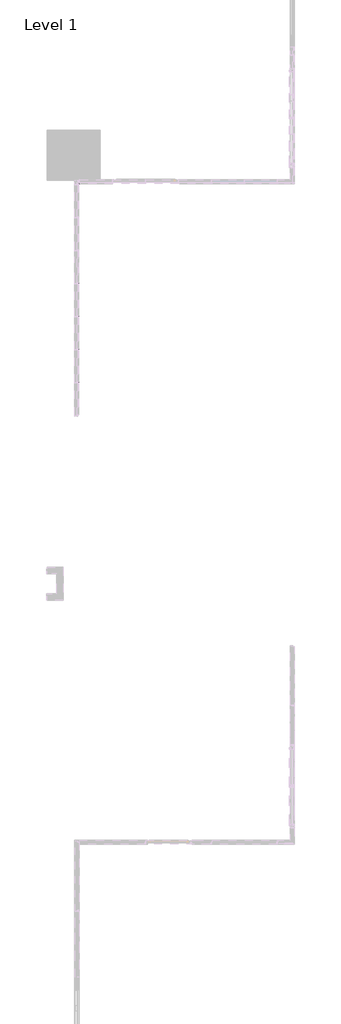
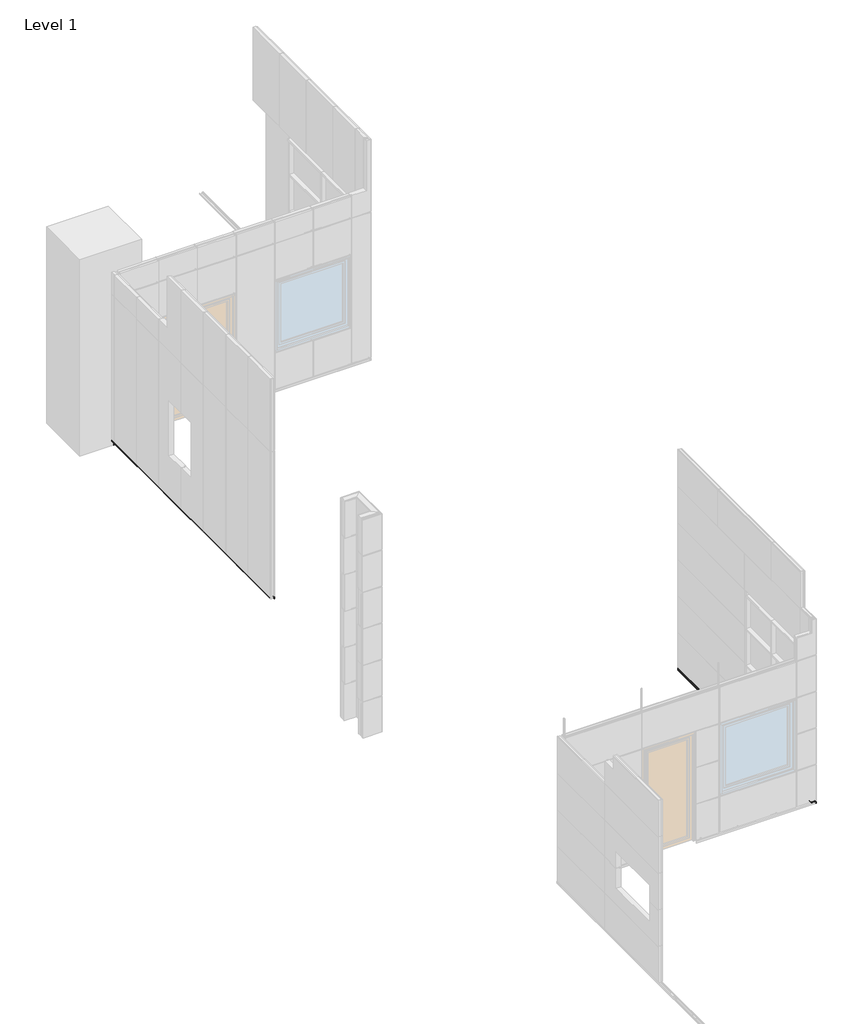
# One storey, part 6 of 8: 3 beams, 1 column.
"""IFC4 building model written with IfcOpenShell, lengths in millimetres."""

from ifc_helpers import new_model, si_unit, point, frame, frame_2d, origin, place, context, project, spatial, polyline, circle_curve, ellipse_curve, trimmed, segment, composite_curve, outline, extrude, faceted_brep, transform, mapped, element, save
from ifc_brep_helpers import plane_surface, cylinder_surface, revolved_surface, advanced_brep
from components import base_detail_476fe2c5, base_detail_be26cd4f, qo_joint_2cbc9101

model = new_model("IFC4")

# Units and contexts
model_context = context("Model", 3, world=origin())
ifc_project = project(units=[si_unit("LENGTHUNIT", "METRE", prefix="MILLI")], contexts=[model_context])

# Site, building, storey
site = spatial("IfcSite", under=ifc_project)
building = spatial("IfcBuilding", under=site)
storey = spatial("IfcBuildingStorey", under=building, Name="Level 1", Elevation=0.0)

# Beams
placement = place(None, origin())
element("IfcBeam", 1, ObjectType="QO-H-02_01 Base : Base detail", at=placement, inside=storey, context=model_context, shape_type="SolidModel", body=[
    faceted_brep([(-37.5982754, -12000.1, 158.1857205), (-37.5982754, -12000.1, 143.1857205), (-36.7982754, -12000.1, 143.1857205), (-36.7982754, -12000.1, 157.3857205), (-33.3982754, -12000.1, 157.3857205), (-33.3982754, -12000.1, 117.4526556), (-0.5238504, -12000.1, 114.5765161), (-0.5238504, -12000.1, 67.2409519), (-9.7647666, -12000.1, 76.4818682), (-10.3304521, -12000.1, 75.9161827), (0.2761496, -12000.1, 65.309581), (0.2761496, -12000.1, 115.309581), (-32.5982754, -12000.1, 118.1857205), (-32.5982754, -12000.1, 158.1857205), (-37.5982754, -6012.8, 158.1857205), (-32.5982754, -6012.8, 158.1857205), (-32.5982754, -6012.8, 118.1857205), (0.2761496, -6012.8, 115.309581), (0.2761496, -6012.8, 65.309581), (-10.3304521, -6012.8, 75.9161827), (-9.7647666, -6012.8, 76.4818682), (-0.5238504, -6012.8, 67.2409519), (-0.5238504, -6012.8, 114.5765161), (-33.3982754, -6012.8, 117.4526556), (-33.3982754, -6012.8, 157.3857205), (-36.7982754, -6012.8, 157.3857205), (-36.7982754, -6012.8, 143.1857205), (-37.5982754, -6012.8, 143.1857205)], [[[0, 1, 2, 3, 4, 5, 6, 7, 8, 9, 10, 11, 12, 13]], [[14, 15, 16, 17, 18, 19, 20, 21, 22, 23, 24, 25, 26, 27]], [[1, 0, 14, 27]], [[2, 1, 27, 26]], [[3, 2, 26, 25]], [[4, 3, 25, 24]], [[5, 4, 24, 23]], [[6, 5, 23, 22]], [[7, 6, 22, 21]], [[8, 7, 21, 20]], [[9, 8, 20, 19]], [[10, 9, 19, 18]], [[11, 10, 18, 17]], [[12, 11, 17, 16]], [[13, 12, 16, 15]], [[0, 13, 15, 14]]]),
    faceted_brep([(-7.8e-06, -12000.1, 65.5857384), (0.2761496, -12000.1, 65.309581), (0.2761496, -12000.1, 115.309581), (-7.8e-06, -12000.1, 115.3337417), (-10.3304521, -11989.7695557, 75.9161827), (-10.3304521, -6012.8, 75.9161827), (0.2761496, -6012.8, 65.309581), (0.2761496, -6012.8, 115.309581), (-32.5982754, -6012.8, 118.1857205), (-32.5982754, -11967.5017324, 118.1857205), (-37.5982754, -6012.8, 158.1857205), (-32.5982754, -6012.8, 158.1857205), (-9.7647666, -6012.8, 76.4818682), (-0.5238504, -6012.8, 67.2409519), (-0.5238504, -6012.8, 114.5765161), (-33.3982754, -6012.8, 117.4526556), (-33.3982754, -6012.8, 157.3857205), (-36.7982754, -6012.8, 157.3857205), (-36.7982754, -6012.8, 143.1857205), (-37.5982754, -6012.8, 143.1857205), (-32.5982754, -11967.5017324, 158.1857205), (-37.5982754, -11962.5017324, 158.1857205), (-9.7647666, -11990.3352411, 76.4818682), (-0.5238504, -11999.5761574, 67.2409519), (-0.5238504, -11999.5761574, 114.5765161), (-33.3982754, -11966.7017324, 117.4526556), (-33.3982754, -11966.7017324, 157.3857205), (-36.7982754, -11963.3017324, 157.3857205), (-36.7982754, -11963.3017324, 143.1857205), (-37.5982754, -11962.5017324, 143.1857205)], [[[0, 1, 2, 3]], [[1, 0, 4, 5, 6]], [[2, 1, 6, 7]], [[3, 2, 7, 8, 9]], [[10, 11, 8, 7, 6, 5, 12, 13, 14, 15, 16, 17, 18, 19]], [[20, 11, 10, 21]], [[9, 8, 11, 20]], [[22, 12, 5, 4]], [[23, 13, 12, 22]], [[24, 14, 13, 23]], [[25, 15, 14, 24]], [[26, 16, 15, 25]], [[27, 17, 16, 26]], [[28, 18, 17, 27]], [[29, 19, 18, 28]], [[21, 10, 19, 29]], [[0, 3, 9, 20, 21, 29, 28, 27, 26, 25, 24, 23, 22, 4]]]),
    advanced_brep(
    [(-121.5, -6012.8, 130.5), (-124.5, -6012.8, 133.5), (-124.5, -6012.8, 180.5), (-123.0, -6012.8, 180.5), (-123.0, -6012.8, 133.5), (-121.5, -6012.8, 132.0), (-54.5, -6012.8, 132.0), (-54.5, -6012.8, 130.5), (-121.5, -12000.1, 130.5), (-54.5, -12000.1, 130.5), (-54.5, -12000.1, 132.0), (-121.5, -12000.1, 132.0), (-123.0, -12000.1, 133.5), (-123.0, -12000.1, 180.5), (-124.5, -12000.1, 180.5), (-124.5, -12000.1, 133.5)],
    [
        (0, 1, circle_curve(frame((-121.5, -6012.8, 133.5), z_axis=(0.0, 1.0, 0.0), x_axis=(-1.0, 0.0, 0.0)), 3.0)),
        (1, 2),
        (2, 3),
        (3, 4),
        (4, 5, circle_curve(frame((-121.5, -6012.8, 133.5), z_axis=(0.0, -1.0, 0.0), x_axis=(-1.0, 0.0, 0.0)), 1.5)),
        (5, 6),
        (6, 7),
        (7, 0),
        (8, 9),
        (9, 10),
        (10, 11),
        (11, 12, circle_curve(frame((-121.5, -12000.1, 133.5), z_axis=(0.0, 1.0, 0.0), x_axis=(-1.0, 0.0, 0.0)), 1.5)),
        (12, 13),
        (13, 14),
        (14, 15),
        (15, 8, circle_curve(frame((-121.5, -12000.1, 133.5), z_axis=(0.0, -1.0, 0.0), x_axis=(-1.0, 0.0, 0.0)), 3.0)),
        (0, 8),
        (15, 1),
        (14, 2),
        (13, 3),
        (12, 4),
        (11, 5),
        (10, 6),
        (9, 7),
    ],
    [
        plane_surface(frame((-124.5, -6012.8, 133.5), z_axis=(0.0, 1.0, 0.0), x_axis=(0.0, 0.0, 1.0))),
        plane_surface(frame((-124.5, -12000.1, 133.5), z_axis=(0.0, -1.0, 0.0), x_axis=(0.0, 0.0, -1.0))),
        cylinder_surface(frame((-121.5, -12000.1, 133.5), z_axis=(0.0, 1.0, 0.0), x_axis=(-1.0, 0.0, 0.0)), 3.0),
        plane_surface(frame((-124.5, -6012.8, 133.5), z_axis=(-1.0, 0.0, 0.0), x_axis=(0.0, -1.0, 0.0))),
        plane_surface(frame((-124.5, -6012.8, 180.5), z_axis=(0.0, 0.0, 1.0), x_axis=(0.0, -1.0, 0.0))),
        plane_surface(frame((-123.0, -6012.8, 180.5), z_axis=(1.0, 0.0, 0.0), x_axis=(0.0, -1.0, 0.0))),
        revolved_surface(polyline([(-123.0, -12000.1, 133.5), (-123.0, -6012.8, 133.5)]), (-121.5, -12000.1, 133.5), (0.0, -1.0, 0.0)),
        plane_surface(frame((-121.5, -6012.8, 132.0), z_axis=(0.0, 0.0, 1.0), x_axis=(0.0, -1.0, 0.0))),
        plane_surface(frame((-54.5, -6012.8, 132.0), z_axis=(1.0, 0.0, 0.0), x_axis=(0.0, -1.0, 0.0))),
        plane_surface(frame((-54.5, -6012.8, 130.5), z_axis=(0.0, 0.0, -1.0), x_axis=(0.0, -1.0, 0.0))),
    ],
    [
        (0, [[1, 2, 3, 4, 5, 6, 7, 8]]),
        (1, [[9, 10, 11, 12, 13, 14, 15, 16]]),
        (2, [[-1, 17, -16, 18]]),
        (3, [[-2, -18, -15, 19]]),
        (4, [[-3, -19, -14, 20]]),
        (5, [[-4, -20, -13, 21]]),
        (6, [[-5, -21, -12, 22]]),
        (7, [[-6, -22, -11, 23]]),
        (8, [[-7, -23, -10, 24]]),
        (9, [[-8, -24, -9, -17]]),
    ],
),
    advanced_brep(
    [(-121.5, -6012.8, 130.5), (-124.5, -6012.8, 133.5), (-124.5, -6012.8, 180.5), (-123.0, -6012.8, 180.5), (-123.0, -6012.8, 133.5), (-121.5, -6012.8, 132.0), (-54.5, -6012.8, 132.0), (-54.5, -6012.8, 130.5), (-121.5, -11878.6000078, 130.5), (-124.5, -11875.6000078, 133.5), (-124.5, -11875.6000078, 180.5), (-123.0, -11877.1000078, 180.5), (-123.0, -11877.1000078, 133.5), (-121.5, -11878.6000078, 132.0), (-54.5, -11945.6000078, 132.0), (-54.5, -11945.6000078, 130.5)],
    [
        (0, 1, circle_curve(frame((-121.5, -6012.8, 133.5), z_axis=(0.0, 1.0, 0.0), x_axis=(-1.0, 0.0, 0.0)), 3.0)),
        (1, 2),
        (2, 3),
        (3, 4),
        (4, 5, circle_curve(frame((-121.5, -6012.8, 133.5), z_axis=(0.0, -1.0, 0.0), x_axis=(-1.0, 0.0, 0.0)), 1.5)),
        (5, 6),
        (6, 7),
        (7, 0),
        (0, 8),
        (8, 9, ellipse_curve(frame((-121.5, -11878.6000078, 133.5), z_axis=(0.7071067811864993, 0.7071067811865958, 0.0), x_axis=(-0.7071067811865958, 0.7071067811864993, 0.0)), 4.2426407, 3.0)),
        (9, 1),
        (9, 10),
        (10, 2),
        (10, 11),
        (11, 3),
        (11, 12),
        (12, 4),
        (12, 13, ellipse_curve(frame((-121.5, -11878.6000078, 133.5), z_axis=(-0.7071067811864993, -0.7071067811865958, 0.0), x_axis=(0.7071067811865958, -0.7071067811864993, 0.0)), 2.1213203, 1.5)),
        (13, 5),
        (13, 14),
        (14, 6),
        (14, 15),
        (15, 7),
        (15, 8),
    ],
    [
        plane_surface(frame((-124.5, -6012.8, 133.5), z_axis=(0.0, 1.0, 0.0), x_axis=(0.0, 0.0, 1.0))),
        cylinder_surface(frame((-121.5, -12000.1, 133.5), z_axis=(0.0, 1.0, 0.0), x_axis=(-1.0, 0.0, 0.0)), 3.0),
        plane_surface(frame((-124.5, -6012.8, 133.5), z_axis=(-1.0, 0.0, 0.0), x_axis=(0.0, -1.0, 0.0))),
        plane_surface(frame((-124.5, -6012.8, 180.5), z_axis=(0.0, 0.0, 1.0), x_axis=(0.0, -1.0, 0.0))),
        plane_surface(frame((-123.0, -6012.8, 180.5), z_axis=(1.0, 0.0, 0.0), x_axis=(0.0, -1.0, 0.0))),
        revolved_surface(polyline([(-123.0, -11880.100007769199, 133.5), (-123.0, -6012.8, 133.5)]), (-121.5, -12000.1, 133.5), (0.0, -1.0, 0.0)),
        plane_surface(frame((-121.5, -6012.8, 132.0), z_axis=(0.0, 0.0, 1.0), x_axis=(0.0, -1.0, 0.0))),
        plane_surface(frame((-54.5, -6012.8, 132.0), z_axis=(1.0, 0.0, 0.0), x_axis=(0.0, -1.0, 0.0))),
        plane_surface(frame((-54.5, -6012.8, 130.5), z_axis=(0.0, 0.0, -1.0), x_axis=(0.0, -1.0, 0.0))),
        plane_surface(frame((0.0, -12000.1000078, 100000.0), z_axis=(-0.7071067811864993, -0.7071067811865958, 0.0), x_axis=(-0.7071067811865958, 0.7071067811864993, 0.0))),
    ],
    [
        (0, [[1, 2, 3, 4, 5, 6, 7, 8]]),
        (1, [[-1, 9, 10, 11]]),
        (2, [[-2, -11, 12, 13]]),
        (3, [[-3, -13, 14, 15]]),
        (4, [[-4, -15, 16, 17]]),
        (5, [[-5, -17, 18, 19]]),
        (6, [[-6, -19, 20, 21]]),
        (7, [[-7, -21, 22, 23]]),
        (8, [[-8, -23, 24, -9]]),
        (9, [[-10, -24, -22, -20, -18, -16, -14, -12]]),
    ],
),
    extrude(outline(composite_curve([segment(polyline([(157.0, -34.0), (157.0, -36.0), (136.0, -36.0)]), True, "CONTINUOUS"), segment(trimmed(circle_curve(frame_2d((136.0, -38.0)), 2.0), [point((136.0, -36.0))], [point((134.0, -38.0))], True, "CARTESIAN"), True, "CONTINUOUS"), segment(polyline([(134.0, -38.0), (134.0, -108.0)]), True, "CONTINUOUS"), segment(trimmed(circle_curve(frame_2d((136.0, -108.0)), 2.0), [point((134.0, -108.0))], [point((136.0, -110.0))], True, "CARTESIAN"), True, "CONTINUOUS"), segment(polyline([(136.0, -110.0), (157.0, -110.0), (157.0, -112.0), (136.0, -112.0)]), True, "CONTINUOUS"), segment(trimmed(circle_curve(frame_2d((136.0, -108.0)), 4.0), [point((136.0, -112.0))], [point((132.0, -108.0))], False, "CARTESIAN"), True, "CONTINUOUS"), segment(polyline([(132.0, -108.0), (132.0, -38.0)]), True, "CONTINUOUS"), segment(trimmed(circle_curve(frame_2d((136.0, -38.0)), 4.0), [point((132.0, -38.0))], [point((136.0, -34.0))], False, "CARTESIAN"), True, "CONTINUOUS"), segment(polyline([(136.0, -34.0), (157.0, -34.0)]), True, "CONTINUOUS")], self_intersect=False)), frame((0.0, -6162.8, 0.0), z_axis=(0.0, 1.0, 0.0), x_axis=(0.0, 0.0, 1.0)), (0.0, 0.0, 1.0), 150.0),
    extrude(outline(composite_curve([segment(polyline([(157.0, -34.0), (157.0, -36.0), (136.0, -36.0)]), True, "CONTINUOUS"), segment(trimmed(circle_curve(frame_2d((136.0, -38.0)), 2.0), [point((136.0, -36.0))], [point((134.0, -38.0))], True, "CARTESIAN"), True, "CONTINUOUS"), segment(polyline([(134.0, -38.0), (134.0, -108.0)]), True, "CONTINUOUS"), segment(trimmed(circle_curve(frame_2d((136.0, -108.0)), 2.0), [point((134.0, -108.0))], [point((136.0, -110.0))], True, "CARTESIAN"), True, "CONTINUOUS"), segment(polyline([(136.0, -110.0), (157.0, -110.0), (157.0, -112.0), (136.0, -112.0)]), True, "CONTINUOUS"), segment(trimmed(circle_curve(frame_2d((136.0, -108.0)), 4.0), [point((136.0, -112.0))], [point((132.0, -108.0))], False, "CARTESIAN"), True, "CONTINUOUS"), segment(polyline([(132.0, -108.0), (132.0, -38.0)]), True, "CONTINUOUS"), segment(trimmed(circle_curve(frame_2d((136.0, -38.0)), 4.0), [point((132.0, -38.0))], [point((136.0, -34.0))], False, "CARTESIAN"), True, "CONTINUOUS"), segment(polyline([(136.0, -34.0), (157.0, -34.0)]), True, "CONTINUOUS")], self_intersect=False)), frame((0.0, -7162.8, 0.0), z_axis=(0.0, 1.0, 0.0), x_axis=(0.0, 0.0, 1.0)), (0.0, 0.0, 1.0), 150.0),
    advanced_brep(
    [(-34.0, -12000.1, 157.0), (-36.0, -12000.1, 157.0), (-36.0, -12000.1, 136.0), (-38.0, -12000.1, 134.0), (-108.0, -12000.1, 134.0), (-110.0, -12000.1, 136.0), (-110.0, -12000.1, 157.0), (-112.0, -12000.1, 157.0), (-112.0, -12000.1, 136.0), (-108.0, -12000.1, 132.0), (-38.0, -12000.1, 132.0), (-34.0, -12000.1, 136.0), (-34.0, -11850.1, 157.0), (-34.0, -11850.1, 136.0), (-38.0, -11850.1, 132.0), (-108.0, -11850.1, 132.0), (-112.0, -11850.1, 136.0), (-112.0, -11850.1, 157.0), (-110.0, -11850.1, 157.0), (-110.0, -11850.1, 136.0), (-108.0, -11850.1, 134.0), (-38.0, -11850.1, 134.0), (-36.0, -11850.1, 136.0), (-36.0, -11850.1, 157.0)],
    [
        (0, 1),
        (1, 2),
        (2, 3, circle_curve(frame((-38.0, -12000.1, 136.0), z_axis=(0.0, 1.0, 0.0), x_axis=(1.0, 0.0, 0.0)), 2.0)),
        (3, 4),
        (4, 5, circle_curve(frame((-108.0, -12000.1, 136.0), z_axis=(0.0, 1.0, 0.0), x_axis=(1.0, 0.0, 0.0)), 2.0)),
        (5, 6),
        (6, 7),
        (7, 8),
        (8, 9, circle_curve(frame((-108.0, -12000.1, 136.0), z_axis=(0.0, -1.0, 0.0), x_axis=(1.0, 0.0, 0.0)), 4.0)),
        (9, 10),
        (10, 11, circle_curve(frame((-38.0, -12000.1, 136.0), z_axis=(0.0, -1.0, 0.0), x_axis=(1.0, 0.0, 0.0)), 4.0)),
        (11, 0),
        (12, 13),
        (13, 14, circle_curve(frame((-38.0, -11850.1, 136.0), z_axis=(0.0, 1.0, 0.0), x_axis=(1.0, 0.0, 0.0)), 4.0)),
        (14, 15),
        (15, 16, circle_curve(frame((-108.0, -11850.1, 136.0), z_axis=(0.0, 1.0, 0.0), x_axis=(1.0, 0.0, 0.0)), 4.0)),
        (16, 17),
        (17, 18),
        (18, 19),
        (19, 20, circle_curve(frame((-108.0, -11850.1, 136.0), z_axis=(0.0, -1.0, 0.0), x_axis=(1.0, 0.0, 0.0)), 2.0)),
        (20, 21),
        (21, 22, circle_curve(frame((-38.0, -11850.1, 136.0), z_axis=(0.0, -1.0, 0.0), x_axis=(1.0, 0.0, 0.0)), 2.0)),
        (22, 23),
        (23, 12),
        (0, 12),
        (23, 1),
        (22, 2),
        (21, 3),
        (20, 4),
        (19, 5),
        (18, 6),
        (17, 7),
        (16, 8),
        (15, 9),
        (14, 10),
        (13, 11),
    ],
    [
        plane_surface(frame((-34.0, -12000.1, 157.0), z_axis=(0.0, -1.0, 0.0), x_axis=(-1.0, 0.0, 0.0))),
        plane_surface(frame((-34.0, -11850.1, 157.0), z_axis=(0.0, 1.0, 0.0), x_axis=(1.0, 0.0, 0.0))),
        plane_surface(frame((-34.0, -12000.1, 157.0), z_axis=(0.0, 0.0, 1.0), x_axis=(0.0, 1.0, 0.0))),
        plane_surface(frame((-36.0, -12000.1, 157.0), z_axis=(-1.0, 0.0, 0.0), x_axis=(0.0, 1.0, 0.0))),
        revolved_surface(polyline([(-36.0, -11850.1, 136.0), (-36.0, -12000.1, 136.0)]), (-38.0, -11850.1, 136.0), (0.0, 1.0, 0.0)),
        plane_surface(frame((-38.0, -12000.1, 134.0), z_axis=(0.0, 0.0, 1.0), x_axis=(0.0, 1.0, 0.0))),
        revolved_surface(polyline([(-106.0, -11850.1, 136.0), (-106.0, -12000.1, 136.0)]), (-108.0, -11850.1, 136.0), (0.0, 1.0, 0.0)),
        plane_surface(frame((-110.0, -12000.1, 136.0), z_axis=(1.0, 0.0, 0.0), x_axis=(0.0, 1.0, 0.0))),
        plane_surface(frame((-110.0, -12000.1, 157.0), z_axis=(0.0, 0.0, 1.0), x_axis=(0.0, 1.0, 0.0))),
        plane_surface(frame((-112.0, -12000.1, 157.0), z_axis=(-1.0, 0.0, 0.0), x_axis=(0.0, 1.0, 0.0))),
        cylinder_surface(frame((-108.0, -11850.1, 136.0), z_axis=(0.0, -1.0, 0.0), x_axis=(1.0, 0.0, 0.0)), 4.0),
        plane_surface(frame((-108.0, -12000.1, 132.0), z_axis=(0.0, 0.0, -1.0), x_axis=(0.0, 1.0, 0.0))),
        cylinder_surface(frame((-38.0, -11850.1, 136.0), z_axis=(0.0, -1.0, 0.0), x_axis=(1.0, 0.0, 0.0)), 4.0),
        plane_surface(frame((-34.0, -12000.1, 136.0), z_axis=(1.0, 0.0, 0.0), x_axis=(0.0, 1.0, 0.0))),
    ],
    [
        (0, [[1, 2, 3, 4, 5, 6, 7, 8, 9, 10, 11, 12]]),
        (1, [[13, 14, 15, 16, 17, 18, 19, 20, 21, 22, 23, 24]]),
        (2, [[-1, 25, -24, 26]]),
        (3, [[-2, -26, -23, 27]]),
        (4, [[-3, -27, -22, 28]]),
        (5, [[-4, -28, -21, 29]]),
        (6, [[-5, -29, -20, 30]]),
        (7, [[-6, -30, -19, 31]]),
        (8, [[-7, -31, -18, 32]]),
        (9, [[-8, -32, -17, 33]]),
        (10, [[-9, -33, -16, 34]]),
        (11, [[-10, -34, -15, 35]]),
        (12, [[-11, -35, -14, 36]]),
        (13, [[-12, -36, -13, -25]]),
    ],
),
    advanced_brep(
    [(-34.0, -11850.1, 157.0), (-34.0, -11850.1, 136.0), (-38.0, -11850.1, 132.0), (-108.0, -11850.1, 132.0), (-112.0, -11850.1, 136.0), (-112.0, -11850.1, 157.0), (-110.0, -11850.1, 157.0), (-110.0, -11850.1, 136.0), (-108.0, -11850.1, 134.0), (-38.0, -11850.1, 134.0), (-36.0, -11850.1, 136.0), (-36.0, -11850.1, 157.0), (-34.0, -11966.1000078, 136.0), (-34.0, -11966.1000078, 157.0), (-38.0, -11962.1000078, 132.0), (-108.0, -11892.1000078, 132.0), (-112.0, -11888.1000078, 136.0), (-112.0, -11888.1000078, 157.0), (-110.0, -11890.1000078, 157.0), (-110.0, -11890.1000078, 136.0), (-108.0, -11892.1000078, 134.0), (-38.0, -11962.1000078, 134.0), (-36.0, -11964.1000078, 136.0), (-36.0, -11964.1000078, 157.0)],
    [
        (0, 1),
        (1, 2, circle_curve(frame((-38.0, -11850.1, 136.0), z_axis=(0.0, 1.0, 0.0), x_axis=(1.0, 0.0, 0.0)), 4.0)),
        (2, 3),
        (3, 4, circle_curve(frame((-108.0, -11850.1, 136.0), z_axis=(0.0, 1.0, 0.0), x_axis=(1.0, 0.0, 0.0)), 4.0)),
        (4, 5),
        (5, 6),
        (6, 7),
        (7, 8, circle_curve(frame((-108.0, -11850.1, 136.0), z_axis=(0.0, -1.0, 0.0), x_axis=(1.0, 0.0, 0.0)), 2.0)),
        (8, 9),
        (9, 10, circle_curve(frame((-38.0, -11850.1, 136.0), z_axis=(0.0, -1.0, 0.0), x_axis=(1.0, 0.0, 0.0)), 2.0)),
        (10, 11),
        (11, 0),
        (12, 1),
        (0, 13),
        (13, 12),
        (14, 2),
        (12, 14, ellipse_curve(frame((-38.0, -11962.1000078, 136.0), z_axis=(0.7071067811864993, 0.7071067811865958, 0.0), x_axis=(0.7071067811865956, -0.7071067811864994, 0.0)), 5.6568542, 4.0)),
        (15, 3),
        (14, 15),
        (16, 4),
        (15, 16, ellipse_curve(frame((-108.0, -11892.1000078, 136.0), z_axis=(0.7071067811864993, 0.7071067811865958, 0.0), x_axis=(0.7071067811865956, -0.7071067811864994, 0.0)), 5.6568542, 4.0)),
        (17, 5),
        (16, 17),
        (18, 6),
        (17, 18),
        (19, 7),
        (18, 19),
        (20, 8),
        (19, 20, ellipse_curve(frame((-108.0, -11892.1000078, 136.0), z_axis=(-0.7071067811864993, -0.7071067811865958, 0.0), x_axis=(-0.7071067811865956, 0.7071067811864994, 0.0)), 2.8284271, 2.0)),
        (21, 9),
        (20, 21),
        (22, 10),
        (21, 22, ellipse_curve(frame((-38.0, -11962.1000078, 136.0), z_axis=(-0.7071067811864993, -0.7071067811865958, 0.0), x_axis=(-0.7071067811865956, 0.7071067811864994, 0.0)), 2.8284271, 2.0)),
        (23, 11),
        (22, 23),
        (23, 13),
    ],
    [
        plane_surface(frame((-34.0, -11850.1, 157.0), z_axis=(0.0, 1.0, 0.0), x_axis=(1.0, 0.0, 0.0))),
        plane_surface(frame((-34.0, -12000.1, 136.0), z_axis=(1.0, 0.0, 0.0), x_axis=(0.0, 1.0, 0.0))),
        cylinder_surface(frame((-38.0, -11850.1, 136.0), z_axis=(0.0, -1.0, 0.0), x_axis=(1.0, 0.0, 0.0)), 4.0),
        plane_surface(frame((-108.0, -12000.1, 132.0), z_axis=(0.0, 0.0, -1.0), x_axis=(0.0, 1.0, 0.0))),
        cylinder_surface(frame((-108.0, -11850.1, 136.0), z_axis=(0.0, -1.0, 0.0), x_axis=(1.0, 0.0, 0.0)), 4.0),
        plane_surface(frame((-112.0, -12000.1, 157.0), z_axis=(-1.0, 0.0, 0.0), x_axis=(0.0, 1.0, 0.0))),
        plane_surface(frame((-110.0, -12000.1, 157.0), z_axis=(0.0, 0.0, 1.0), x_axis=(0.0, 1.0, 0.0))),
        plane_surface(frame((-110.0, -12000.1, 136.0), z_axis=(1.0, 0.0, 0.0), x_axis=(0.0, 1.0, 0.0))),
        revolved_surface(polyline([(-106.0, -11850.1, 136.0), (-106.0, -11894.100007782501, 136.0)]), (-108.0, -11850.1, 136.0), (0.0, 1.0, 0.0)),
        plane_surface(frame((-38.0, -12000.1, 134.0), z_axis=(0.0, 0.0, 1.0), x_axis=(0.0, 1.0, 0.0))),
        revolved_surface(polyline([(-36.0, -11850.1, 136.0), (-36.0, -11964.1000078, 136.0)]), (-38.0, -11850.1, 136.0), (0.0, 1.0, 0.0)),
        plane_surface(frame((-36.0, -12000.1, 157.0), z_axis=(-1.0, 0.0, 0.0), x_axis=(0.0, 1.0, 0.0))),
        plane_surface(frame((-34.0, -12000.1, 157.0), z_axis=(0.0, 0.0, 1.0), x_axis=(0.0, 1.0, 0.0))),
        plane_surface(frame((0.0, -12000.1000078, 100000.0), z_axis=(-0.7071067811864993, -0.7071067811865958, 0.0), x_axis=(-0.7071067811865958, 0.7071067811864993, 0.0))),
    ],
    [
        (0, [[1, 2, 3, 4, 5, 6, 7, 8, 9, 10, 11, 12]]),
        (1, [[13, -1, 14, 15]]),
        (2, [[16, -2, -13, 17]]),
        (3, [[18, -3, -16, 19]]),
        (4, [[20, -4, -18, 21]]),
        (5, [[22, -5, -20, 23]]),
        (6, [[24, -6, -22, 25]]),
        (7, [[26, -7, -24, 27]]),
        (8, [[28, -8, -26, 29]]),
        (9, [[30, -9, -28, 31]]),
        (10, [[32, -10, -30, 33]]),
        (11, [[34, -11, -32, 35]]),
        (12, [[-14, -12, -34, 36]]),
        (13, [[-36, -35, -33, -31, -29, -27, -25, -23, -21, -19, -17, -15]]),
    ],
),
    extrude(outline(composite_curve([segment(polyline([(157.0, -34.0), (157.0, -36.0), (136.0, -36.0)]), True, "CONTINUOUS"), segment(trimmed(circle_curve(frame_2d((136.0, -38.0)), 2.0), [point((136.0, -36.0))], [point((134.0, -38.0))], True, "CARTESIAN"), True, "CONTINUOUS"), segment(polyline([(134.0, -38.0), (134.0, -108.0)]), True, "CONTINUOUS"), segment(trimmed(circle_curve(frame_2d((136.0, -108.0)), 2.0), [point((134.0, -108.0))], [point((136.0, -110.0))], True, "CARTESIAN"), True, "CONTINUOUS"), segment(polyline([(136.0, -110.0), (157.0, -110.0), (157.0, -112.0), (136.0, -112.0)]), True, "CONTINUOUS"), segment(trimmed(circle_curve(frame_2d((136.0, -108.0)), 4.0), [point((136.0, -112.0))], [point((132.0, -108.0))], False, "CARTESIAN"), True, "CONTINUOUS"), segment(polyline([(132.0, -108.0), (132.0, -38.0)]), True, "CONTINUOUS"), segment(trimmed(circle_curve(frame_2d((136.0, -38.0)), 4.0), [point((132.0, -38.0))], [point((136.0, -34.0))], False, "CARTESIAN"), True, "CONTINUOUS"), segment(polyline([(136.0, -34.0), (157.0, -34.0)]), True, "CONTINUOUS")], self_intersect=False)), frame((0.0, -8162.8, 0.0), z_axis=(0.0, 1.0, 0.0), x_axis=(0.0, 0.0, 1.0)), (0.0, 0.0, 1.0), 150.0),
    extrude(outline(composite_curve([segment(polyline([(157.0, -34.0), (157.0, -36.0), (136.0, -36.0)]), True, "CONTINUOUS"), segment(trimmed(circle_curve(frame_2d((136.0, -38.0)), 2.0), [point((136.0, -36.0))], [point((134.0, -38.0))], True, "CARTESIAN"), True, "CONTINUOUS"), segment(polyline([(134.0, -38.0), (134.0, -108.0)]), True, "CONTINUOUS"), segment(trimmed(circle_curve(frame_2d((136.0, -108.0)), 2.0), [point((134.0, -108.0))], [point((136.0, -110.0))], True, "CARTESIAN"), True, "CONTINUOUS"), segment(polyline([(136.0, -110.0), (157.0, -110.0), (157.0, -112.0), (136.0, -112.0)]), True, "CONTINUOUS"), segment(trimmed(circle_curve(frame_2d((136.0, -108.0)), 4.0), [point((136.0, -112.0))], [point((132.0, -108.0))], False, "CARTESIAN"), True, "CONTINUOUS"), segment(polyline([(132.0, -108.0), (132.0, -38.0)]), True, "CONTINUOUS"), segment(trimmed(circle_curve(frame_2d((136.0, -38.0)), 4.0), [point((132.0, -38.0))], [point((136.0, -34.0))], False, "CARTESIAN"), True, "CONTINUOUS"), segment(polyline([(136.0, -34.0), (157.0, -34.0)]), True, "CONTINUOUS")], self_intersect=False)), frame((0.0, -9162.8, 0.0), z_axis=(0.0, 1.0, 0.0), x_axis=(0.0, 0.0, 1.0)), (0.0, 0.0, 1.0), 150.0),
    extrude(outline(composite_curve([segment(polyline([(157.0, -34.0), (157.0, -36.0), (136.0, -36.0)]), True, "CONTINUOUS"), segment(trimmed(circle_curve(frame_2d((136.0, -38.0)), 2.0), [point((136.0, -36.0))], [point((134.0, -38.0))], True, "CARTESIAN"), True, "CONTINUOUS"), segment(polyline([(134.0, -38.0), (134.0, -108.0)]), True, "CONTINUOUS"), segment(trimmed(circle_curve(frame_2d((136.0, -108.0)), 2.0), [point((134.0, -108.0))], [point((136.0, -110.0))], True, "CARTESIAN"), True, "CONTINUOUS"), segment(polyline([(136.0, -110.0), (157.0, -110.0), (157.0, -112.0), (136.0, -112.0)]), True, "CONTINUOUS"), segment(trimmed(circle_curve(frame_2d((136.0, -108.0)), 4.0), [point((136.0, -112.0))], [point((132.0, -108.0))], False, "CARTESIAN"), True, "CONTINUOUS"), segment(polyline([(132.0, -108.0), (132.0, -38.0)]), True, "CONTINUOUS"), segment(trimmed(circle_curve(frame_2d((136.0, -38.0)), 4.0), [point((132.0, -38.0))], [point((136.0, -34.0))], False, "CARTESIAN"), True, "CONTINUOUS"), segment(polyline([(136.0, -34.0), (157.0, -34.0)]), True, "CONTINUOUS")], self_intersect=False)), frame((0.0, -10162.8, 0.0), z_axis=(0.0, 1.0, 0.0), x_axis=(0.0, 0.0, 1.0)), (0.0, 0.0, 1.0), 150.0),
])
base_detail_shape = base_detail_476fe2c5(model_context)
element("IfcBeam", 2, ObjectType="QO-V-02_01 Base : Base detail", at=placement, inside=storey, context=model_context, shape_type="MappedRepresentation", body=[
    mapped(base_detail_shape, transform((-6545.0000003, 1485.4999998, 162.7), x_axis=(0.0, -1.0, 0.0), y_axis=(1.0, 0.0, 0.0), z_axis=(0.0, 0.0, 1.0))),
])
base_detail_2_shape = base_detail_be26cd4f(model_context)
element("IfcBeam", 3, ObjectType="QO-V-02_01 Base : Base detail", at=placement, inside=storey, context=model_context, shape_type="MappedRepresentation", body=[
    mapped(base_detail_2_shape, transform((-5998.5000003, 7999.9, 162.7), x_axis=(-1.0, 0.0, 0.0), y_axis=(0.0, -1.0, 0.0), z_axis=(0.0, 0.0, 1.0))),
])

# Column
qo_joint_shape = qo_joint_2cbc9101(model_context)
element("IfcColumn", 4, ObjectType="QO-V-inner corner_C : QO Joint", at=placement, inside=storey, context=model_context, shape_type="MappedRepresentation", body=[
    mapped(qo_joint_shape, transform((-6487.4430459, 7999.9, 0.0), x_axis=(1.0, 0.0, 0.0), y_axis=(0.0, 1.0, 0.0), z_axis=(0.0, 0.0, 1.0))),
])

save(model, "model.ifc")
